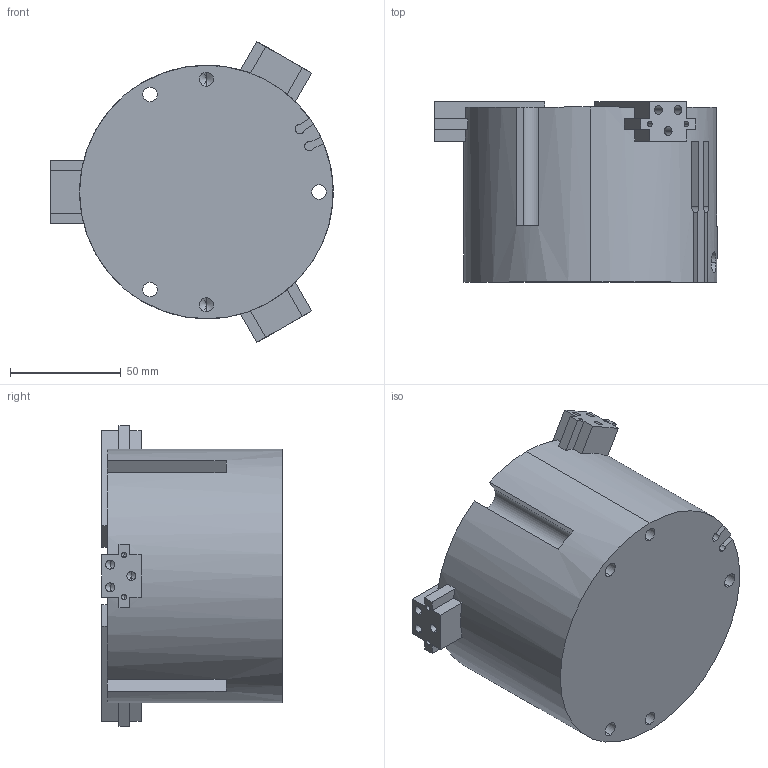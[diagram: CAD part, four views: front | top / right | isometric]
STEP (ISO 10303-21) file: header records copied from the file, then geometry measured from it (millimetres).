
FILE_DESCRIPTION (( 'STEP AP203' ), '1' );
FILE_NAME ('AGP-83 OPEN in IN.STEP', '2014-11-05T14:45:00', ( 'setup' ), ( '' ), 'SwSTEP 2.0', 'SolidWorks 2013', '' );
FILE_SCHEMA (( 'CONFIG_CONTROL_DESIGN' ));
Length unit declared in the file: inch
Products named in the file (3): AGP-83 Body ; Slider Jaw; AGP-83 OPEN in IN
Assembly tree (4 placements, depth 2):
  AGP-83 OPEN in IN
    AGP-83 Body 
    Slider Jaw  x3
Bounding box: 127.22 x 81.28 x 135.65 mm (x, y, z)
Volume: 782375.6 mm3; surface area: 81501.1 mm2
Topology: 4 solids, 4 shells, 252 faces, 659 edges, 396 vertices
Faces by surface type: plane 114, cylinder 82, cone 56
Entity records: 5324 total; most frequent: CARTESIAN_POINT 1080, DIRECTION 831, ORIENTED_EDGE 790, EDGE_CURVE 395, AXIS2_PLACEMENT_3D 287, VERTEX_POINT 260, LINE 257, VECTOR 257
